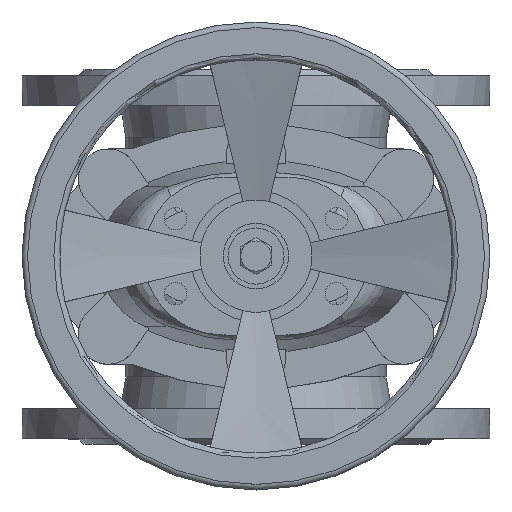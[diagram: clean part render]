
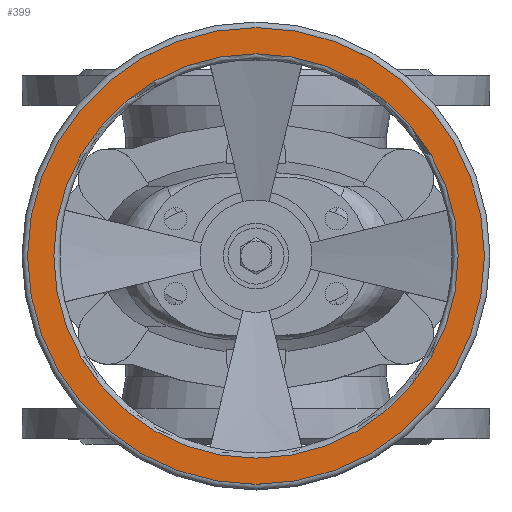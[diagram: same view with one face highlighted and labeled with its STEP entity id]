
A CAD part, top view. The second image highlights one B-rep face of the part: STEP entity #399.
In plain terms, the highlighted planar face has unit normal (0, 0, 1).
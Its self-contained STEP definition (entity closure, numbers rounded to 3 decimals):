
#399=ADVANCED_FACE('',(#2603,#2605),#2607,.T.);
#2603=FACE_BOUND('',#2604,.T.);
#2604=EDGE_LOOP('',(#5203));
#2605=FACE_BOUND('',#2606,.T.);
#2606=EDGE_LOOP('',(#5204));
#2607=PLANE('',#2608);
#2608=AXIS2_PLACEMENT_3D('',#2609,#2610,#2611);
#2609=CARTESIAN_POINT('',(0.,0.,369.));
#2610=DIRECTION('',(0.,0.,1.));
#2611=DIRECTION('',(0.,-1.,0.));
#5203=ORIENTED_EDGE('',*,*,#6385,.T.);
#5204=ORIENTED_EDGE('',*,*,#6355,.F.);
#6355=EDGE_CURVE('',#7032,#7032,#7033,.T.);
#6385=EDGE_CURVE('',#7077,#7077,#7078,.T.);
#7032=VERTEX_POINT('',#8543);
#7033=CIRCLE('',#8544,108.);
#7077=VERTEX_POINT('',#8660);
#7078=CIRCLE('',#8661,122.);
#8543=CARTESIAN_POINT('',(0.,-108.,369.));
#8544=AXIS2_PLACEMENT_3D('',#8545,#8546,#8547);
#8545=CARTESIAN_POINT('',(0.,0.,369.));
#8546=DIRECTION('',(0.,0.,1.));
#8547=DIRECTION('',(0.,-1.,0.));
#8660=CARTESIAN_POINT('',(0.,-122.,369.));
#8661=AXIS2_PLACEMENT_3D('',#8662,#8663,#8664);
#8662=CARTESIAN_POINT('',(0.,0.,369.));
#8663=DIRECTION('',(0.,0.,1.));
#8664=DIRECTION('',(0.,-1.,0.));
